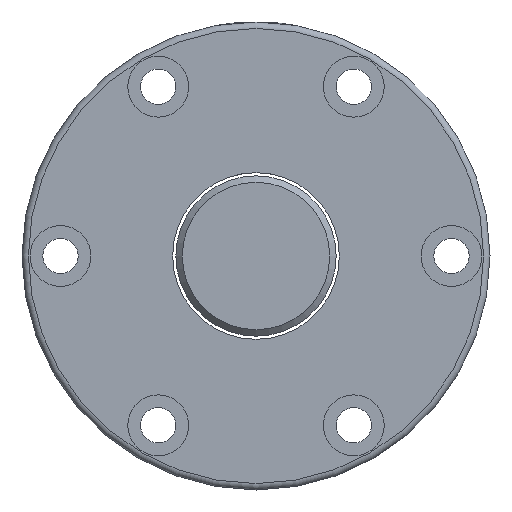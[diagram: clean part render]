
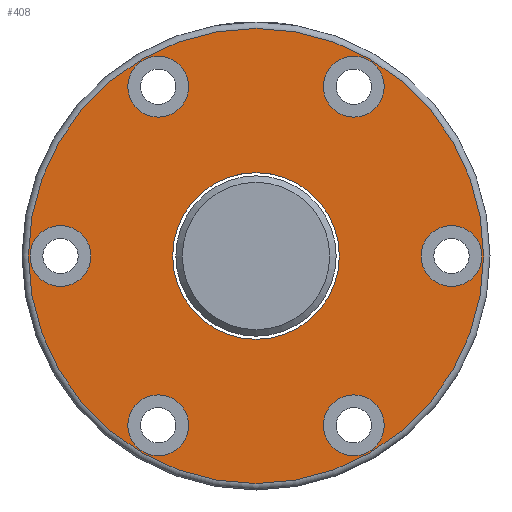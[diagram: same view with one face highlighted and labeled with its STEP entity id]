
A CAD part, left-side view. The second image highlights one B-rep face of the part: STEP entity #408.
In plain terms, the highlighted planar face has unit normal (-1, 0, 0).
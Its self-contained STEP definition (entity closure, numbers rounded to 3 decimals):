
#18 = CARTESIAN_POINT ( 'NONE',  ( -55., -15.25, 31.164 ) ) ;
#19 = AXIS2_PLACEMENT_3D ( 'NONE', #2639, #1156, #41 ) ;
#22 = CARTESIAN_POINT ( 'NONE',  ( -55., -15.25, -26.414 ) ) ;
#26 = ORIENTED_EDGE ( 'NONE', *, *, #1060, .T. ) ;
#38 = DIRECTION ( 'NONE',  ( 1., 0., 0. ) ) ;
#41 = DIRECTION ( 'NONE',  ( 0., 0., -1. ) ) ;
#101 = AXIS2_PLACEMENT_3D ( 'NONE', #947, #1164, #2021 ) ;
#115 = ORIENTED_EDGE ( 'NONE', *, *, #700, .T. ) ;
#117 = EDGE_CURVE ( 'NONE', #377, #377, #999, .T. ) ;
#125 = CARTESIAN_POINT ( 'NONE',  ( -55., 19.364, 28.789 ) ) ;
#183 = EDGE_LOOP ( 'NONE', ( #2450 ) ) ;
#223 = CARTESIAN_POINT ( 'NONE',  ( -55., -19.364, -28.789 ) ) ;
#305 = FACE_BOUND ( 'NONE', #534, .T. ) ;
#313 = CARTESIAN_POINT ( 'NONE',  ( -55., 0., 0. ) ) ;
#377 = VERTEX_POINT ( 'NONE', #1243 ) ;
#408 = ADVANCED_FACE ( 'NONE', ( #1557, #2387, #305, #2165, #486, #907, #1127, #1774 ), #1983, .F. ) ;
#486 = FACE_BOUND ( 'NONE', #1048, .T. ) ;
#496 = DIRECTION ( 'NONE',  ( 1., 0., 0. ) ) ;
#534 = EDGE_LOOP ( 'NONE', ( #1631 ) ) ;
#551 = AXIS2_PLACEMENT_3D ( 'NONE', #313, #693, #1750 ) ;
#577 = DIRECTION ( 'NONE',  ( 1., 0., 0. ) ) ;
#614 = EDGE_LOOP ( 'NONE', ( #1716 ) ) ;
#645 = CIRCLE ( 'NONE', #2427, 4.75 ) ;
#648 = VERTEX_POINT ( 'NONE', #1906 ) ;
#693 = DIRECTION ( 'NONE',  ( 1., 0., 0. ) ) ;
#696 = ORIENTED_EDGE ( 'NONE', *, *, #117, .T. ) ;
#700 = EDGE_CURVE ( 'NONE', #2042, #2042, #645, .T. ) ;
#705 = DIRECTION ( 'NONE',  ( 1., 0., 0. ) ) ;
#723 = DIRECTION ( 'NONE',  ( 0., 0., 1. ) ) ;
#783 = CARTESIAN_POINT ( 'NONE',  ( -55., 0., -13. ) ) ;
#805 = AXIS2_PLACEMENT_3D ( 'NONE', #1548, #705, #2182 ) ;
#813 = AXIS2_PLACEMENT_3D ( 'NONE', #2185, #496, #723 ) ;
#876 = DIRECTION ( 'NONE',  ( 0., -0.866, -0.5 ) ) ;
#907 = FACE_BOUND ( 'NONE', #614, .T. ) ;
#929 = EDGE_LOOP ( 'NONE', ( #696 ) ) ;
#945 = CIRCLE ( 'NONE', #805, 4.75 ) ;
#947 = CARTESIAN_POINT ( 'NONE',  ( -55., -30.5, 0. ) ) ;
#999 = CIRCLE ( 'NONE', #1350, 4.75 ) ;
#1048 = EDGE_LOOP ( 'NONE', ( #2019 ) ) ;
#1060 = EDGE_CURVE ( 'NONE', #1843, #1843, #1894, .T. ) ;
#1124 = ORIENTED_EDGE ( 'NONE', *, *, #1387, .T. ) ;
#1127 = FACE_OUTER_BOUND ( 'NONE', #183, .T. ) ;
#1156 = DIRECTION ( 'NONE',  ( 1., 0., 0. ) ) ;
#1164 = DIRECTION ( 'NONE',  ( 1., 0., 0. ) ) ;
#1168 = CIRCLE ( 'NONE', #551, 35.5 ) ;
#1243 = CARTESIAN_POINT ( 'NONE',  ( -55., 34.614, -2.375 ) ) ;
#1256 = CARTESIAN_POINT ( 'NONE',  ( -55., 0., -35.5 ) ) ;
#1283 = DIRECTION ( 'NONE',  ( 1., 0., 0. ) ) ;
#1323 = EDGE_CURVE ( 'NONE', #1694, #1694, #1168, .T. ) ;
#1350 = AXIS2_PLACEMENT_3D ( 'NONE', #1952, #38, #1740 ) ;
#1387 = EDGE_CURVE ( 'NONE', #1918, #1918, #2113, .T. ) ;
#1408 = CARTESIAN_POINT ( 'NONE',  ( -55., 15.25, 26.414 ) ) ;
#1423 = CIRCLE ( 'NONE', #1560, 4.75 ) ;
#1444 = EDGE_CURVE ( 'NONE', #2349, #2349, #2022, .T. ) ;
#1492 = DIRECTION ( 'NONE',  ( 0., 0., -1. ) ) ;
#1548 = CARTESIAN_POINT ( 'NONE',  ( -55., 15.25, -26.414 ) ) ;
#1557 = FACE_BOUND ( 'NONE', #929, .T. ) ;
#1560 = AXIS2_PLACEMENT_3D ( 'NONE', #22, #2155, #876 ) ;
#1631 = ORIENTED_EDGE ( 'NONE', *, *, #1444, .T. ) ;
#1681 = CARTESIAN_POINT ( 'NONE',  ( -55., -34.614, 2.375 ) ) ;
#1694 = VERTEX_POINT ( 'NONE', #1256 ) ;
#1716 = ORIENTED_EDGE ( 'NONE', *, *, #2181, .T. ) ;
#1740 = DIRECTION ( 'NONE',  ( 0., 0.866, -0.5 ) ) ;
#1750 = DIRECTION ( 'NONE',  ( 0., 0., -1. ) ) ;
#1774 = FACE_BOUND ( 'NONE', #2147, .T. ) ;
#1843 = VERTEX_POINT ( 'NONE', #783 ) ;
#1894 = CIRCLE ( 'NONE', #2734, 13. ) ;
#1906 = CARTESIAN_POINT ( 'NONE',  ( -55., 15.25, -31.164 ) ) ;
#1918 = VERTEX_POINT ( 'NONE', #1681 ) ;
#1952 = CARTESIAN_POINT ( 'NONE',  ( -55., 30.5, 0. ) ) ;
#1983 = PLANE ( 'NONE',  #19 ) ;
#2019 = ORIENTED_EDGE ( 'NONE', *, *, #2031, .T. ) ;
#2021 = DIRECTION ( 'NONE',  ( 0., -0.866, 0.5 ) ) ;
#2022 = CIRCLE ( 'NONE', #813, 4.75 ) ;
#2031 = EDGE_CURVE ( 'NONE', #2532, #2532, #1423, .T. ) ;
#2042 = VERTEX_POINT ( 'NONE', #125 ) ;
#2113 = CIRCLE ( 'NONE', #101, 4.75 ) ;
#2147 = EDGE_LOOP ( 'NONE', ( #26 ) ) ;
#2155 = DIRECTION ( 'NONE',  ( 1., 0., 0. ) ) ;
#2161 = EDGE_LOOP ( 'NONE', ( #1124 ) ) ;
#2165 = FACE_BOUND ( 'NONE', #2161, .T. ) ;
#2181 = EDGE_CURVE ( 'NONE', #648, #648, #945, .T. ) ;
#2182 = DIRECTION ( 'NONE',  ( 0., 0., -1. ) ) ;
#2185 = CARTESIAN_POINT ( 'NONE',  ( -55., -15.25, 26.414 ) ) ;
#2268 = DIRECTION ( 'NONE',  ( 0., 0.866, 0.5 ) ) ;
#2324 = CARTESIAN_POINT ( 'NONE',  ( -55., 0., 0. ) ) ;
#2349 = VERTEX_POINT ( 'NONE', #18 ) ;
#2387 = FACE_BOUND ( 'NONE', #2517, .T. ) ;
#2427 = AXIS2_PLACEMENT_3D ( 'NONE', #1408, #577, #2268 ) ;
#2450 = ORIENTED_EDGE ( 'NONE', *, *, #1323, .F. ) ;
#2517 = EDGE_LOOP ( 'NONE', ( #115 ) ) ;
#2532 = VERTEX_POINT ( 'NONE', #223 ) ;
#2639 = CARTESIAN_POINT ( 'NONE',  ( -55., 0., 0. ) ) ;
#2734 = AXIS2_PLACEMENT_3D ( 'NONE', #2324, #1283, #1492 ) ;
